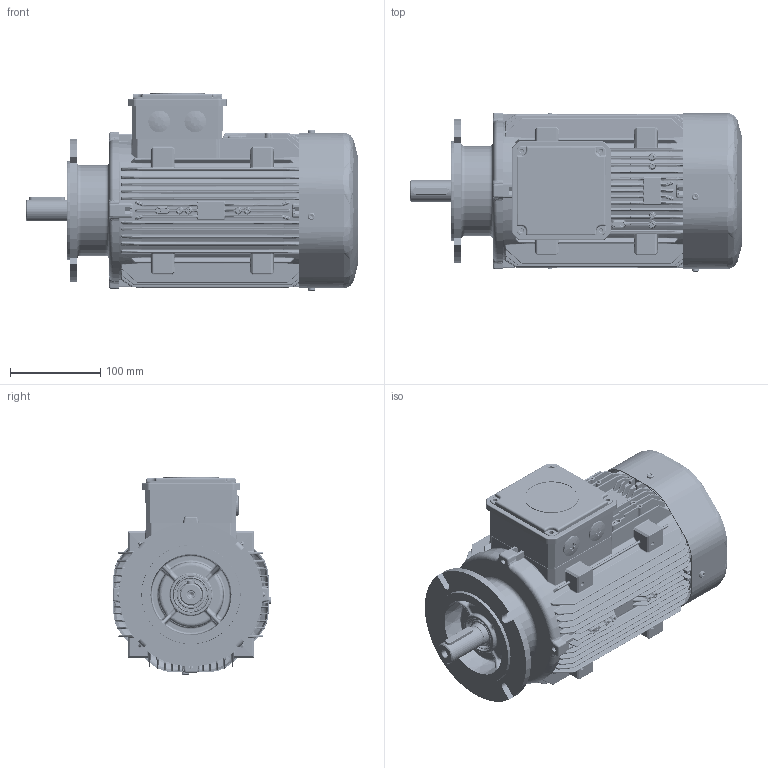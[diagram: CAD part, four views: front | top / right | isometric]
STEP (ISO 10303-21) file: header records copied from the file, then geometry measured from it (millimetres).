
FILE_DESCRIPTION(/* description */ (''),/* implementation_level */ '2;1');
FILE_NAME(/* name */ 'OUTLOOK VIEW QH90 FA B5 - REDUCED FF130 SPL.stp',/* time_stamp */ '2021-09-21T14:23:57+03:00',/* author */ (''),/* organization */ (''),/* preprocessor_version */ 'ST-DEVELOPER v16',/* originating_system */ 'SIEMENS PLM Software NX 11.0',/* authorisation */ '');
FILE_SCHEMA (('AUTOMOTIVE_DESIGN { 1 0 10303 214 3 1 1 1 }'));
Products named in the file (1): 260652D491E0rwnj
Bounding box: 367.71 x 176.1 x 219.47 mm (x, y, z)
Volume: 1647222 mm3; surface area: 967709.4 mm2
Topology: 39 solids, 48 shells, 9426 faces, 22537 edges, 12913 vertices
Faces by surface type: bspline 3217, cylinder 3061, plane 1942, torus 466, sphere 362, cone 342, extrusion 36
Full cylindrical faces by diameter (mm): 2.5 x2, 3.242 x3, 3.4 x48, 4 x4, 4.2 x1, 4.6 x12, 4.722 x3, 5 x31, 5.5 x4, 6.8 x1, 8 x3, 8.4 x1, 9.874 x1, 14 x2, 19.4 x1, 20 x1, 21 x1, 23.38 x2, 23.4 x1, 23.9 x1, 24 x3, 24.4 x2, 25 x5, 25.5 x2, 27.5 x1, 27.94 x1, 29 x2, 30 x1, 34.35 x4, 36.6 x4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
Entity records: 343264 total; most frequent: CARTESIAN_POINT 145009, ORIENTED_EDGE 42734, DIRECTION 37275, EDGE_CURVE 21367, AXIS2_PLACEMENT_3D 15084, VERTEX_POINT 12673, EDGE_LOOP 10294, ADVANCED_FACE 9384
